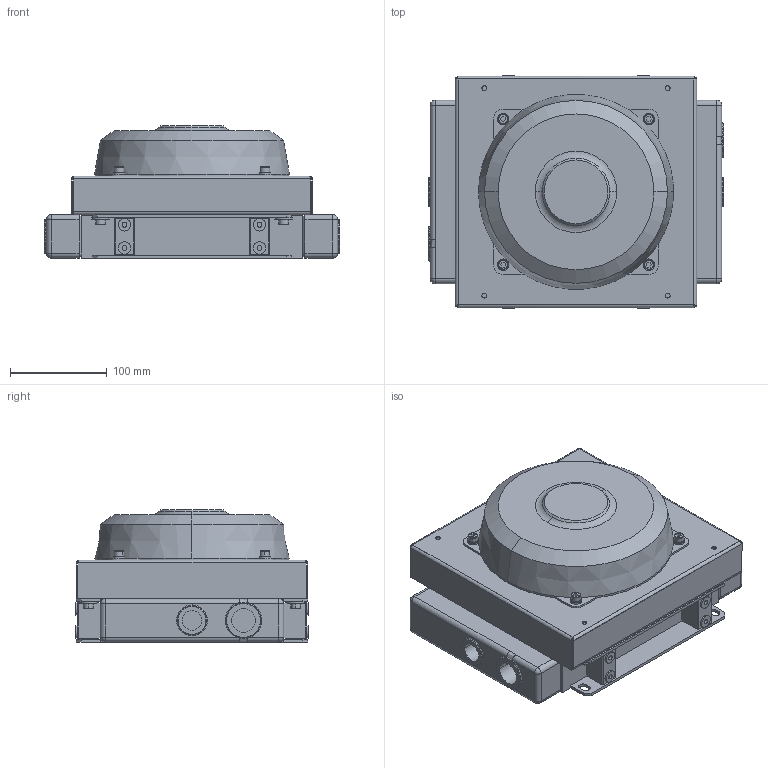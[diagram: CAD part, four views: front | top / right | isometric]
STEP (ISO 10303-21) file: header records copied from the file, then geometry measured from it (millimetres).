
FILE_DESCRIPTION (( 'STEP AP203' ), '1' );
FILE_NAME ('ST501200A.STEP', '2016-06-27T12:22:53', ( '' ), ( '' ), 'SwSTEP 2.0', 'SolidWorks 2016', '' );
FILE_SCHEMA (( 'CONFIG_CONTROL_DESIGN' ));
Length unit declared in the file: millimetre
Products named in the file (12): REZ-6; RAD-712600; VC-6016; VAS-712600; RP-64; SUP-SSA50; ST501200A; SUP-P-SSA50; ST500000-G; ST500000-V; ES12SDA50A-WPC; CS-712702
Assembly tree (31 placements, depth 4):
  ST501200A
    ST500000-V
      ST500000-G
        RAD-712600
        VAS-712600  x2
        SUP-SSA50  x4
        SUP-P-SSA50  x4
    ES12SDA50A-WPC
    CS-712702
    REZ-6  x4
    VC-6016  x8
    RP-64  x4
Bounding box: 306 x 241 x 137 mm (x, y, z)
Volume: 3787228.7 mm3; surface area: 548857.8 mm2
Topology: 45 solids, 45 shells, 1135 faces, 2542 edges, 1474 vertices
Faces by surface type: cylinder 449, plane 400, sphere 128, cone 96, torus 38, bspline 24
Entity records: 20584 total; most frequent: CARTESIAN_POINT 3880, DIRECTION 3437, ORIENTED_EDGE 2854, EDGE_CURVE 1427, AXIS2_PLACEMENT_3D 1359, VERTEX_POINT 801, EDGE_LOOP 748, LINE 719
